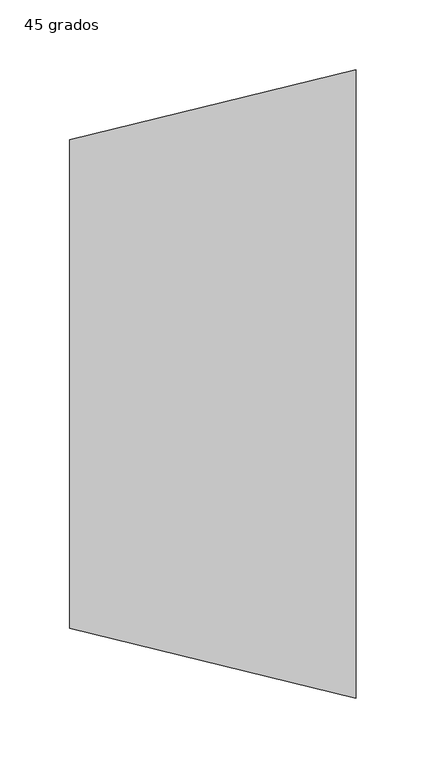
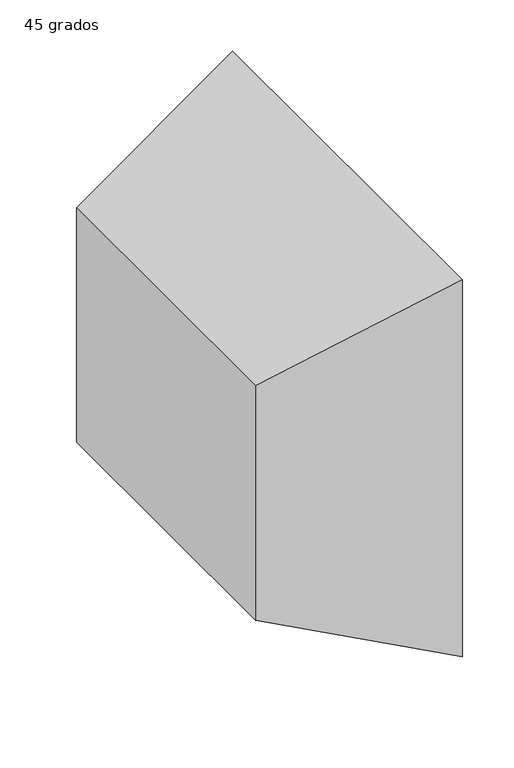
"""IFC4 building model written with IfcOpenShell, lengths in millimetres: duct fitting geometry, M_Transición rectangular - Ángulo : 45 grados."""

import ifcopenshell
import ifcopenshell.guid

model = None  # the IFC model being written
_history = None  # IfcOwnerHistory: only IFC2X3 demands one
_inside = {}  # id of a spatial element -> (the spatial element, [elements in it])
_under = {}  # id of a project, library or spatial element -> (it, [spatial elements below it])
_declared = {}  # id of a project -> (the project, [libraries it declares])
_typed = {}  # id of a type object -> (the type object, [elements of that type])
_made_of = {}  # id of a material, layer set ... -> (it, [elements and type objects made of it])


def new_model(schema):
    """Start an empty IFC model of exactly this schema.

    Asked for "IFC4X3", IfcOpenShell would pick the latest addendum, in which some entities
    have other attributes; the version numbers below select the first issue.
    IFC2X3 requires an IfcOwnerHistory on every rooted entity: one is made here for all.
    """
    global model, _history
    if schema == "IFC4X3":
        model = ifcopenshell.file(schema_version=(4, 3, 0, 0))
    else:
        model = ifcopenshell.file(schema=schema)
    _inside.clear()
    _under.clear()
    _declared.clear()
    _typed.clear()
    _made_of.clear()
    _history = None
    if model.schema == "IFC2X3":
        org = make("IfcOrganization", Name="unknown")
        user = make(
            "IfcPersonAndOrganization",
            ThePerson=make("IfcPerson", FamilyName="unknown"),
            TheOrganization=org,
        )
        app = make(
            "IfcApplication",
            ApplicationDeveloper=org,
            Version="unknown",
            ApplicationFullName="unknown",
            ApplicationIdentifier="unknown",
        )
        _history = make(
            "IfcOwnerHistory",
            OwningUser=user,
            OwningApplication=app,
            ChangeAction="ADDED",
            CreationDate=0,
        )
    return model


def make(cls, **values):
    """One entity of the class cls with the attributes given. An attribute that is None is left unset."""
    return model.create_entity(
        cls, **{name: value for name, value in values.items() if value is not None}
    )


def rooted(cls, **values):
    """An entity with a GlobalId (a new one), such as an element, a storey or a relation."""
    return make(cls, GlobalId=ifcopenshell.guid.new(), OwnerHistory=_history, **values)


def si_unit(unit_type, name, prefix=None):
    """IfcSIUnit, for example si_unit("LENGTHUNIT", "METRE", prefix="MILLI")."""
    return make("IfcSIUnit", UnitType=unit_type, Prefix=prefix, Name=name)


def assignment(units):
    """IfcUnitAssignment: the units of a project."""
    return None if units is None else make("IfcUnitAssignment", Units=units)


def point(xyz):
    """IfcCartesianPoint."""
    return None if xyz is None else make("IfcCartesianPoint", Coordinates=xyz)


def direction(xyz):
    """IfcDirection."""
    return None if xyz is None else make("IfcDirection", DirectionRatios=xyz)


def frame(location, z_axis=None, x_axis=None):
    """IfcAxis2Placement3D, a coordinate frame: its origin and axes. An axis left out is left unset."""
    return make(
        "IfcAxis2Placement3D",
        Location=point(location),
        Axis=direction(z_axis),
        RefDirection=direction(x_axis),
    )


def origin():
    """The frame at (0, 0, 0) with its axes left unset."""
    return frame((0.0, 0.0, 0.0))


def place(relative_to, where):
    """IfcLocalPlacement: puts the frame where relative to a parent placement (None: the world)."""
    return make(
        "IfcLocalPlacement", PlacementRelTo=relative_to, RelativePlacement=where
    )


def context(
    kind, dimensions, precision=None, world=None, true_north=None, identifier=None
):
    """IfcGeometricRepresentationContext, for example the 3D "Model" context."""
    return make(
        "IfcGeometricRepresentationContext",
        ContextIdentifier=identifier,
        ContextType=kind,
        CoordinateSpaceDimension=dimensions,
        Precision=precision,
        WorldCoordinateSystem=world,
        TrueNorth=true_north,
    )


def project(units=None, contexts=None):
    """IfcProject with its units and contexts."""
    return rooted(
        "IfcProject",
        Name="project",
        RepresentationContexts=contexts,
        UnitsInContext=assignment(units),
    )


def spatial(cls, under=None, at=None, **own):
    """A site, building, storey or space (cls), placed at a placement, below another one or the project."""
    s = rooted(cls, ObjectPlacement=at, **own)
    if under is not None:
        _under.setdefault(under.id(), (under, []))[1].append(s)
    return s


def faces_of(points, faces, orient=None, outer=None):
    """IfcFace entities. A face is a list of loops; a loop is a list of indices into points, from 0.

    orient and outer hold one flag for each loop. By default every Orientation is true, the
    first loop of a face is its IfcFaceOuterBound and the others are IfcFaceBound.
    """
    made = []
    for i, loops in enumerate(faces):
        bounds = []
        for j, loop in enumerate(loops):
            is_outer = j == 0 if outer is None else outer[i][j]
            bounds.append(
                make(
                    "IfcFaceOuterBound" if is_outer else "IfcFaceBound",
                    Bound=make("IfcPolyLoop", Polygon=[points[k] for k in loop]),
                    Orientation=True if orient is None else orient[i][j],
                )
            )
        made.append(make("IfcFace", Bounds=bounds))
    return made


def faceted_brep(points, faces, orient=None, outer=None, voids=None):
    """IfcFacetedBrep: a solid bounded by flat faces; with voids (closed shells), ...WithVoids."""
    shared = [point(p) for p in points]
    hull = make("IfcClosedShell", CfsFaces=faces_of(shared, faces, orient, outer))
    if voids is None:
        return make("IfcFacetedBrep", Outer=hull)
    return make(
        "IfcFacetedBrepWithVoids",
        Outer=hull,
        Voids=[
            make(cls, CfsFaces=faces_of(shared, fs, o, b)) for cls, fs, o, b in voids
        ],
    )


def shape(context_of_items, identifier, shape_type, items):
    """IfcShapeRepresentation: the items that make up one representation, for example the "Body"."""
    return make(
        "IfcShapeRepresentation",
        ContextOfItems=context_of_items,
        RepresentationIdentifier=identifier,
        RepresentationType=shape_type,
        Items=items,
    )


def source(mapping_origin, context_of_items, identifier, shape_type, items):
    """IfcRepresentationMap: a shape defined once, which mapped items show again and again."""
    return make(
        "IfcRepresentationMap",
        MappingOrigin=mapping_origin,
        MappedRepresentation=shape(context_of_items, identifier, shape_type, items),
    )


def transform(
    local_origin,
    x_axis=None,
    y_axis=None,
    z_axis=None,
    scale=None,
    scale2=None,
    scale3=None,
    uniform=True,
):
    """IfcCartesianTransformationOperator3D, or its non-uniform kind. x_axis, y_axis, z_axis: its Axis1, 2, 3."""
    if uniform:
        return make(
            "IfcCartesianTransformationOperator3D",
            Axis1=direction(x_axis),
            Axis2=direction(y_axis),
            LocalOrigin=point(local_origin),
            Scale=scale,
            Axis3=direction(z_axis),
        )
    return make(
        "IfcCartesianTransformationOperator3DnonUniform",
        Axis1=direction(x_axis),
        Axis2=direction(y_axis),
        LocalOrigin=point(local_origin),
        Scale=scale,
        Axis3=direction(z_axis),
        Scale2=scale2,
        Scale3=scale3,
    )


def mapped(mapping_source, mapping_target):
    """IfcMappedItem: shows the shape of a source again, moved by a transform."""
    return make(
        "IfcMappedItem", MappingSource=mapping_source, MappingTarget=mapping_target
    )


def made_of(thing, what):
    """Note that an element or type object is made of a material, layer set ...; save() writes the relation."""
    if what is not None:
        _made_of.setdefault(what.id(), (what, []))[1].append(thing)
    return thing


def element(
    cls,
    number,
    at=None,
    inside=None,
    cuts=None,
    type_object=None,
    material=None,
    context=None,
    identifier="Body",
    shape_type=None,
    held_by="IfcProductDefinitionShape",
    body=None,
    shapes=None,
    **own,
):
    """One element of the class cls, such as IfcWall. Its Tag is "e" and its number.

    at: its placement. inside: the storey or other place that contains it. cuts: it is an
    opening in that element (IfcRelVoidsElement). A single representation is given by context,
    identifier, shape_type and body (its items); several are given by shapes. held_by: the class
    of the entity that holds the representations. save() writes the other relations.
    """
    e = rooted(cls, Tag="e%d" % number, ObjectPlacement=at, **own)
    if body is not None:
        shapes = [shape(context, identifier, shape_type, body)]
    if shapes is not None:
        e.Representation = make(held_by, Representations=shapes)
    if inside is not None:
        _inside.setdefault(inside.id(), (inside, []))[1].append(e)
    if cuts is not None:
        rooted(
            "IfcRelVoidsElement", RelatingBuildingElement=cuts, RelatedOpeningElement=e
        )
    if type_object is not None:
        _typed.setdefault(type_object.id(), (type_object, []))[1].append(e)
    return made_of(e, material)


def aggregate(whole, parts):
    """IfcRelAggregates: a whole, such as a stair, and the parts it consists of."""
    return rooted("IfcRelAggregates", RelatingObject=whole, RelatedObjects=parts)


def save(model, path):
    """Write the relations noted so far, then the file.

    IfcRelAggregates (storeys below a building ...), IfcRelContainedInSpatialStructure (elements
    in a storey), IfcRelDefinesByType, IfcRelAssociatesMaterial and IfcRelDeclares: one each for
    every whole, place, type object, material and project.
    """
    for whole, parts in _under.values():
        aggregate(whole, parts)
    for where, things in _inside.values():
        rooted(
            "IfcRelContainedInSpatialStructure",
            RelatedElements=things,
            RelatingStructure=where,
        )
    for kind, things in _typed.values():
        rooted("IfcRelDefinesByType", RelatedObjects=things, RelatingType=kind)
    for what, things in _made_of.values():
        rooted("IfcRelAssociatesMaterial", RelatedObjects=things, RelatingMaterial=what)
    for by, libraries in _declared.values():
        rooted("IfcRelDeclares", RelatingContext=by, RelatedDefinitions=libraries)
    model.write(path)


def duct_fitting_45_grados_29309759(model_context):
    return source(origin(), model_context, "Body", "Brep", [
        faceted_brep([(205.2081528, -225.0, 225.0), (205.2081528, -225.0, -225.0), (205.2081528, 225.0, -225.0), (205.2081528, 225.0, 225.0), (0.0, -175.0, 140.0), (0.0, 175.0, 140.0), (0.0, 175.0, -140.0), (0.0, -175.0, -140.0)], [[[0, 1, 2, 3]], [[4, 5, 6, 7]], [[4, 7, 1, 0]], [[7, 6, 2, 1]], [[6, 5, 3, 2]], [[5, 4, 0, 3]]]),
    ])


if __name__ == "__main__":
    model = new_model("IFC4")
    model_context = context("Model", 3, world=origin())
    ifc_project = project(units=[si_unit("LENGTHUNIT", "METRE", prefix="MILLI")], contexts=[model_context])
    site = spatial("IfcSite", under=ifc_project)
    building = spatial("IfcBuilding", under=site)
    placement = place(None, origin())
    duct_fitting_45_grados_shape = duct_fitting_45_grados_29309759(model_context)
    element("IfcDuctFitting", 1, ObjectType="M_Transición rectangular - Ángulo : 45 grados", at=placement, inside=building, context=model_context, shape_type="MappedRepresentation", body=[
        mapped(duct_fitting_45_grados_shape, transform((0.0, 0.0, 0.0), x_axis=(1.0, 0.0, 0.0), y_axis=(0.0, 1.0, 0.0), z_axis=(0.0, 0.0, 1.0))),
    ])
    save(model, "model.ifc")
